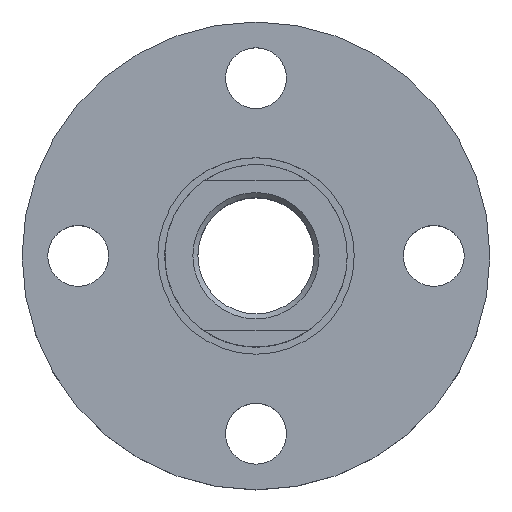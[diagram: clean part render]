
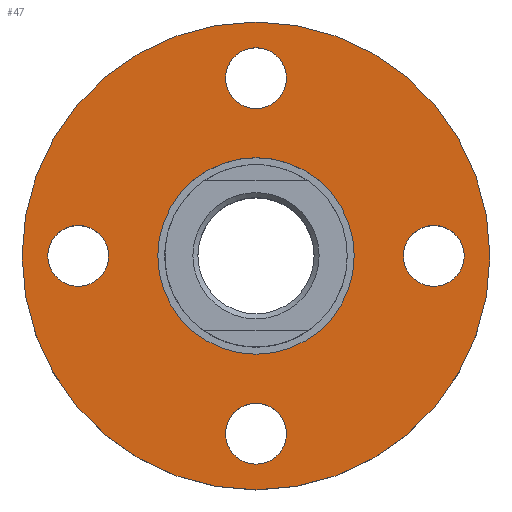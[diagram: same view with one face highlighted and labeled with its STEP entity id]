
A CAD part, top view. The second image highlights one B-rep face of the part: STEP entity #47.
In plain terms, the highlighted planar face has unit normal (0, 0, 1).
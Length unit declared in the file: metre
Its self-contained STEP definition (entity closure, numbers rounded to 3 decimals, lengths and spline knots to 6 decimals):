
#47 = ADVANCED_FACE( '', ( #102, #103, #104, #105, #106, #107 ), #108, .F. );
#102 = FACE_BOUND( '', #181, .T. );
#103 = FACE_BOUND( '', #182, .T. );
#104 = FACE_BOUND( '', #183, .T. );
#105 = FACE_BOUND( '', #184, .T. );
#106 = FACE_OUTER_BOUND( '', #185, .T. );
#107 = FACE_BOUND( '', #186, .T. );
#108 = PLANE( '', #187 );
#181 = EDGE_LOOP( '', ( #262 ) );
#182 = EDGE_LOOP( '', ( #263 ) );
#183 = EDGE_LOOP( '', ( #264 ) );
#184 = EDGE_LOOP( '', ( #265 ) );
#185 = EDGE_LOOP( '', ( #266 ) );
#186 = EDGE_LOOP( '', ( #267 ) );
#187 = AXIS2_PLACEMENT_3D( '', #268, #269, #270 );
#262 = ORIENTED_EDGE( '', *, *, #377, .F. );
#263 = ORIENTED_EDGE( '', *, *, #378, .F. );
#264 = ORIENTED_EDGE( '', *, *, #379, .F. );
#265 = ORIENTED_EDGE( '', *, *, #380, .F. );
#266 = ORIENTED_EDGE( '', *, *, #381, .T. );
#267 = ORIENTED_EDGE( '', *, *, #375, .T. );
#268 = CARTESIAN_POINT( '', ( 0., 0., 0.016 ) );
#269 = DIRECTION( '', ( 0., 0., -1. ) );
#270 = DIRECTION( '', ( 1., 0., 0. ) );
#375 = EDGE_CURVE( '', #425, #425, #426, .F. );
#377 = EDGE_CURVE( '', #428, #428, #429, .T. );
#378 = EDGE_CURVE( '', #430, #430, #431, .T. );
#379 = EDGE_CURVE( '', #432, #432, #433, .T. );
#380 = EDGE_CURVE( '', #434, #434, #435, .T. );
#381 = EDGE_CURVE( '', #436, #436, #437, .T. );
#425 = VERTEX_POINT( '', #496 );
#426 = CIRCLE( '', #497, 0.021 );
#428 = VERTEX_POINT( '', #499 );
#429 = CIRCLE( '', #500, 0.0065 );
#430 = VERTEX_POINT( '', #501 );
#431 = CIRCLE( '', #502, 0.0065 );
#432 = VERTEX_POINT( '', #503 );
#433 = CIRCLE( '', #504, 0.0065 );
#434 = VERTEX_POINT( '', #505 );
#435 = CIRCLE( '', #506, 0.0065 );
#436 = VERTEX_POINT( '', #507 );
#437 = CIRCLE( '', #508, 0.05 );
#496 = CARTESIAN_POINT( '', ( 0.021, 0., 0.016 ) );
#497 = AXIS2_PLACEMENT_3D( '', #569, #570, #571 );
#499 = CARTESIAN_POINT( '', ( 0., -0.0445, 0.016 ) );
#500 = AXIS2_PLACEMENT_3D( '', #572, #573, #574 );
#501 = CARTESIAN_POINT( '', ( -0.0445, 0., 0.016 ) );
#502 = AXIS2_PLACEMENT_3D( '', #575, #576, #577 );
#503 = CARTESIAN_POINT( '', ( 0., 0.0445, 0.016 ) );
#504 = AXIS2_PLACEMENT_3D( '', #578, #579, #580 );
#505 = CARTESIAN_POINT( '', ( 0.0445, 0., 0.016 ) );
#506 = AXIS2_PLACEMENT_3D( '', #581, #582, #583 );
#507 = CARTESIAN_POINT( '', ( 0.05, 0., 0.016 ) );
#508 = AXIS2_PLACEMENT_3D( '', #584, #585, #586 );
#569 = CARTESIAN_POINT( '', ( 0., 0., 0.016 ) );
#570 = DIRECTION( '', ( 0., 0., 1. ) );
#571 = DIRECTION( '', ( 1., 0., 0. ) );
#572 = CARTESIAN_POINT( '', ( 0., -0.038, 0.016 ) );
#573 = DIRECTION( '', ( 0., 0., 1. ) );
#574 = DIRECTION( '', ( 0., -1., 0. ) );
#575 = CARTESIAN_POINT( '', ( -0.038, 0., 0.016 ) );
#576 = DIRECTION( '', ( 0., 0., 1. ) );
#577 = DIRECTION( '', ( -1., 0., 0. ) );
#578 = CARTESIAN_POINT( '', ( 0., 0.038, 0.016 ) );
#579 = DIRECTION( '', ( 0., 0., 1. ) );
#580 = DIRECTION( '', ( 0., 1., 0. ) );
#581 = CARTESIAN_POINT( '', ( 0.038, 0., 0.016 ) );
#582 = DIRECTION( '', ( 0., 0., 1. ) );
#583 = DIRECTION( '', ( 1., 0., 0. ) );
#584 = CARTESIAN_POINT( '', ( 0., 0., 0.016 ) );
#585 = DIRECTION( '', ( 0., 0., 1. ) );
#586 = DIRECTION( '', ( 1., 0., 0. ) );
